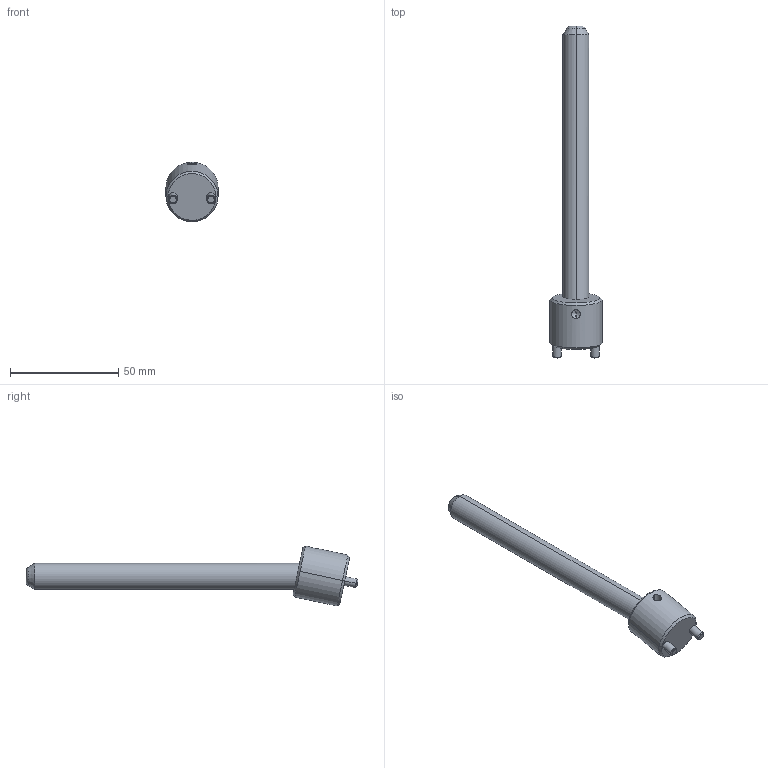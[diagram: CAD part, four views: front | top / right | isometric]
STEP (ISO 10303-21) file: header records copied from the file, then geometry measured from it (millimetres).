
FILE_DESCRIPTION(('CATIA V5 STEP Exchange'),'2;1');
FILE_NAME('C:\Users\Raffaele\Desktop\3D BOLEX\3D FILES CF BOLEX\19-INCLINED ASSEMBLY REF_CI\CI1212125.stp','2019-06-20T14:02:12+00:00',('none'),('none'),'CATIA Version 5 Release 20 GA (IN-10)','CATIA V5 STEP AP203','none');
FILE_SCHEMA(('CONFIG_CONTROL_DESIGN'));
Length unit declared in the file: millimetre
Products named in the file (1): CI1212125
Assembly tree (2 placements, depth 2):
  CI1212125
    #58
    #578
Bounding box: 24 x 153.22 x 27.63 mm (x, y, z)
Volume: 23847.9 mm3; surface area: 8912.1 mm2
Topology: 2 solids, 2 shells, 39 faces, 82 edges, 47 vertices
Faces by surface type: cone 14, cylinder 14, plane 7, torus 4
Entity records: 1467 total; most frequent: CARTESIAN_POINT 608, ORIENTED_EDGE 160, DIRECTION 145, EDGE_CURVE 80, AXIS2_PLACEMENT_3D 72, VERTEX_POINT 47, EDGE_LOOP 43, ADVANCED_FACE 39
